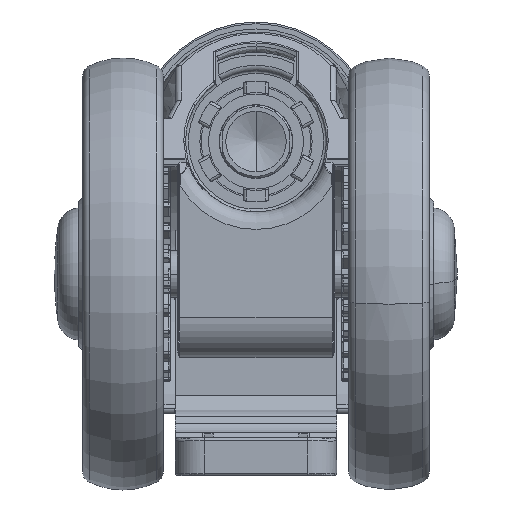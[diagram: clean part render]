
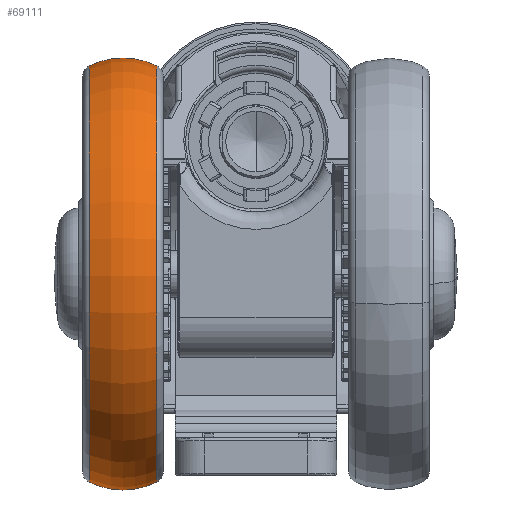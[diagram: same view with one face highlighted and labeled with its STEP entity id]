
A CAD part, front view. The second image highlights one B-rep face of the part: STEP entity #69111.
In plain terms, the highlighted toroidal (fillet/blend) face has major radius 24.25 mm and minor radius 13.25 mm.
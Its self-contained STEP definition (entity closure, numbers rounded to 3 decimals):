
#68961=CARTESIAN_POINT('',(-28.989,0.,0.));
#68962=DIRECTION('',(-1.,0.,0.));
#68963=DIRECTION('',(0.,0.009,-1.));
#68964=AXIS2_PLACEMENT_3D('',#68961,#68962,#68963);
#68966=CARTESIAN_POINT('',(-17.211,0.,0.));
#68967=DIRECTION('',(-1.,0.,0.));
#68968=DIRECTION('',(0.,0.009,-1.));
#68969=AXIS2_PLACEMENT_3D('',#68966,#68967,#68968);
#69006=CARTESIAN_POINT('',(-23.1,0.212,-24.249));
#69007=DIRECTION('',(0.,1.,0.009));
#69008=DIRECTION('',(0.444,0.008,-0.896));
#69009=AXIS2_PLACEMENT_3D('',#69006,#69007,#69008);
#69016=CARTESIAN_POINT('',(-23.1,-0.212,24.249));
#69017=DIRECTION('',(0.,-1.,-0.009));
#69018=DIRECTION('',(0.444,-0.008,0.896));
#69019=AXIS2_PLACEMENT_3D('',#69016,#69017,#69018);
#69038=CARTESIAN_POINT('',(-28.989,0.315,
-36.118));
#69039=CARTESIAN_POINT('',(-28.989,-0.315,
36.118));
#69040=VERTEX_POINT('',#69038);
#69041=VERTEX_POINT('',#69039);
#69042=CARTESIAN_POINT('',(-17.211,0.315,
-36.118));
#69043=CARTESIAN_POINT('',(-17.211,-0.315,
36.118));
#69044=VERTEX_POINT('',#69042);
#69045=VERTEX_POINT('',#69043);
#69097=CARTESIAN_POINT('',(-23.1,0.,0.));
#69098=DIRECTION('',(1.,0.,0.));
#69099=DIRECTION('',(0.,0.009,-1.));
#69100=AXIS2_PLACEMENT_3D('',#69097,#69098,#69099);
#69101=TOROIDAL_SURFACE('',#69100,24.25,13.25);
#69103=ORIENTED_EDGE('',*,*,#69102,.T.);
#69105=ORIENTED_EDGE('',*,*,#69104,.F.);
#69106=ORIENTED_EDGE('',*,*,#69080,.F.);
#69108=ORIENTED_EDGE('',*,*,#69107,.T.);
#69109=EDGE_LOOP('',(#69103,#69105,#69106,#69108));
#69110=FACE_OUTER_BOUND('',#69109,.F.);
#69111=ADVANCED_FACE('',(#69110),#69101,.T.);
#68965=CIRCLE('',#68964,36.119);
#68970=CIRCLE('',#68969,36.119);
#69010=CIRCLE('',#69009,13.25);
#69020=CIRCLE('',#69019,13.25);
#69080=EDGE_CURVE('',#69044,#69045,#68970,.T.);
#69102=EDGE_CURVE('',#69040,#69041,#68965,.T.);
#69104=EDGE_CURVE('',#69045,#69041,#69020,.T.);
#69107=EDGE_CURVE('',#69044,#69040,#69010,.T.);
